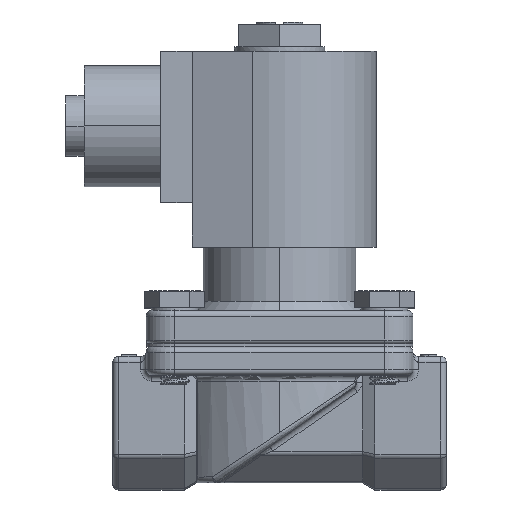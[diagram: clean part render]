
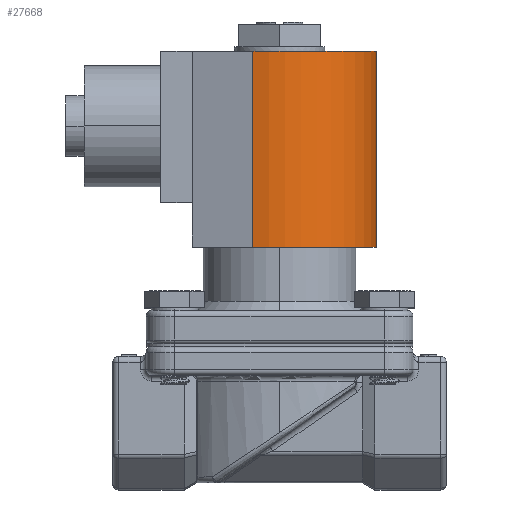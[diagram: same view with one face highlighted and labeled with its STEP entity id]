
A CAD part, top view. The second image highlights one B-rep face of the part: STEP entity #27668.
In plain terms, the highlighted cylindrical face has radius 20.32 mm (diameter 40.64 mm), a partial arc.
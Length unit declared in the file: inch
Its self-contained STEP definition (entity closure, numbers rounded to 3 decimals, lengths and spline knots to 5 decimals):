
#502 = VECTOR ( 'NONE', #18745, 39.37008 ) ;
#588 = DIRECTION ( 'NONE',  ( 0., 1., 0. ) ) ;
#880 = DIRECTION ( 'NONE',  ( -1., 0., 0. ) ) ;
#1389 = DIRECTION ( 'NONE',  ( 0., 1., 0. ) ) ;
#3411 = CARTESIAN_POINT ( 'NONE',  ( 0.8, 2.416, 0. ) ) ;
#4367 = EDGE_LOOP ( 'NONE', ( #5075, #27686, #8450, #17960 ) ) ;
#5075 = ORIENTED_EDGE ( 'NONE', *, *, #13529, .F. ) ;
#7085 = VECTOR ( 'NONE', #18566, 39.37008 ) ;
#8450 = ORIENTED_EDGE ( 'NONE', *, *, #27804, .T. ) ;
#8731 = AXIS2_PLACEMENT_3D ( 'NONE', #23028, #14447, #18307 ) ;
#9303 = CARTESIAN_POINT ( 'NONE',  ( 0., 2.416, 0. ) ) ;
#10017 = CARTESIAN_POINT ( 'NONE',  ( -0.22081, 2.416, 0.76892 ) ) ;
#11090 = CARTESIAN_POINT ( 'NONE',  ( -0.22081, 2.416, 0.76892 ) ) ;
#11694 = AXIS2_PLACEMENT_3D ( 'NONE', #25677, #1389, #16526 ) ;
#11873 = CYLINDRICAL_SURFACE ( 'NONE', #8731, 0.8 ) ;
#13529 = EDGE_CURVE ( 'NONE', #25196, #17356, #26993, .T. ) ;
#13622 = CARTESIAN_POINT ( 'NONE',  ( -0.22081, 0.796, 0.76892 ) ) ;
#14447 = DIRECTION ( 'NONE',  ( 0., -1., 0. ) ) ;
#16305 = FACE_OUTER_BOUND ( 'NONE', #4367, .T. ) ;
#16526 = DIRECTION ( 'NONE',  ( -1., 0., 0. ) ) ;
#16719 = CIRCLE ( 'NONE', #11694, 0.8 ) ;
#17356 = VERTEX_POINT ( 'NONE', #20085 ) ;
#17960 = ORIENTED_EDGE ( 'NONE', *, *, #19266, .T. ) ;
#18307 = DIRECTION ( 'NONE',  ( 1., 0., 0. ) ) ;
#18492 = EDGE_CURVE ( 'Defeatured_0_1+Defeatured_0_335+Defeatured_0_336+Defeatured_0_334', #21503, #25196, #21308, .T. ) ;
#18566 = DIRECTION ( 'NONE',  ( 0., -1., 0. ) ) ;
#18745 = DIRECTION ( 'NONE',  ( 0., -1., 0. ) ) ;
#19026 = AXIS2_PLACEMENT_3D ( 'NONE', #9303, #588, #880 ) ;
#19266 = EDGE_CURVE ( 'Defeatured_0_335+Defeatured_0_333+Defeatured_0_336+Defeatured_0_334', #20851, #17356, #16719, .T. ) ;
#20085 = CARTESIAN_POINT ( 'NONE',  ( 0.8, 0.796, 0. ) ) ;
#20851 = VERTEX_POINT ( 'NONE', #13622 ) ;
#21308 = CIRCLE ( 'NONE', #19026, 0.8 ) ;
#21503 = VERTEX_POINT ( 'NONE', #11090 ) ;
#21868 = CARTESIAN_POINT ( 'NONE',  ( 0.8, 2.416, 0. ) ) ;
#23028 = CARTESIAN_POINT ( 'NONE',  ( 0., 2.416, 0. ) ) ;
#25183 = LINE ( 'NONE', #10017, #502 ) ;
#25196 = VERTEX_POINT ( 'NONE', #21868 ) ;
#25677 = CARTESIAN_POINT ( 'NONE',  ( 0., 0.796, 0. ) ) ;
#26993 = LINE ( 'NONE', #3411, #7085 ) ;
#27668 = ADVANCED_FACE ( 'Defeatured_0_335', ( #16305 ), #11873, .T. ) ;
#27686 = ORIENTED_EDGE ( 'NONE', *, *, #18492, .F. ) ;
#27804 = EDGE_CURVE ( 'Defeatured_0_335+Defeatured_0_336+Defeatured_0_1+Defeatured_0_333', #21503, #20851, #25183, .T. ) ;
